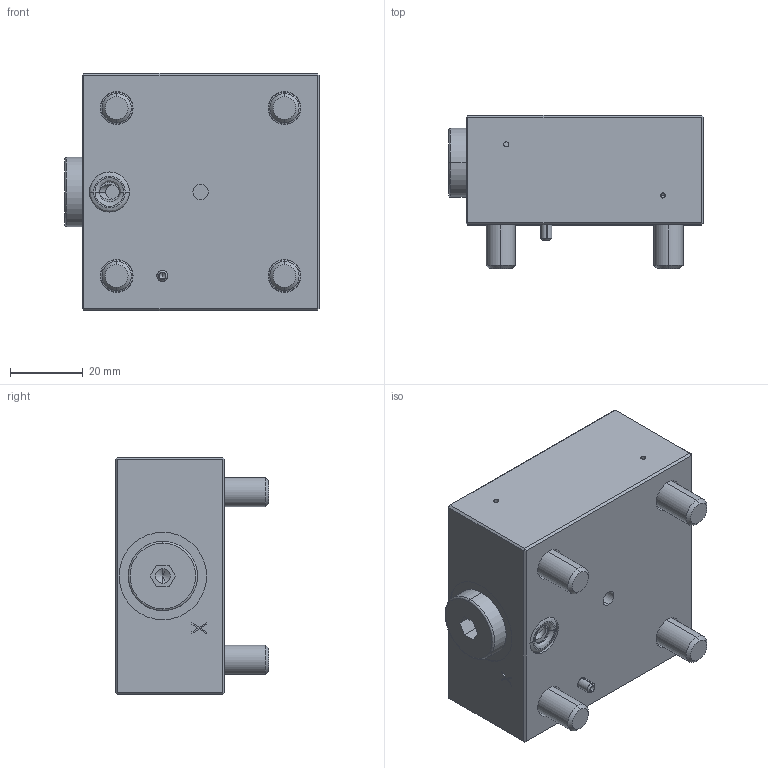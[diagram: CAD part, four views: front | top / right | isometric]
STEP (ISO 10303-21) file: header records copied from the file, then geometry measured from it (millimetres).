
FILE_DESCRIPTION (( 'STEP AP214' ), '1' );
FILE_NAME ('D16410.STEP', '2017-03-17T14:13:08', ( '' ), ( '' ), 'SwSTEP 2.0', 'SolidWorks 2016', '' );
FILE_SCHEMA (( 'AUTOMOTIVE_DESIGN' ));
Length unit declared in the file: millimetre
Products named in the file (1): D16410
Bounding box: 69.7 x 42 x 65 mm (x, y, z)
Volume: 124096.8 mm3; surface area: 27198.6 mm2
Topology: 8 solids, 9 shells, 245 faces, 538 edges, 319 vertices
Faces by surface type: plane 125, cylinder 66, cone 28, torus 18, bspline 8
Entity records: 9468 total; most frequent: CARTESIAN_POINT 1269, DIRECTION 1196, ORIENTED_EDGE 1048, EDGE_CURVE 524, AXIS2_PLACEMENT_3D 448, VERTEX_POINT 319, VECTOR 300, LINE 300
